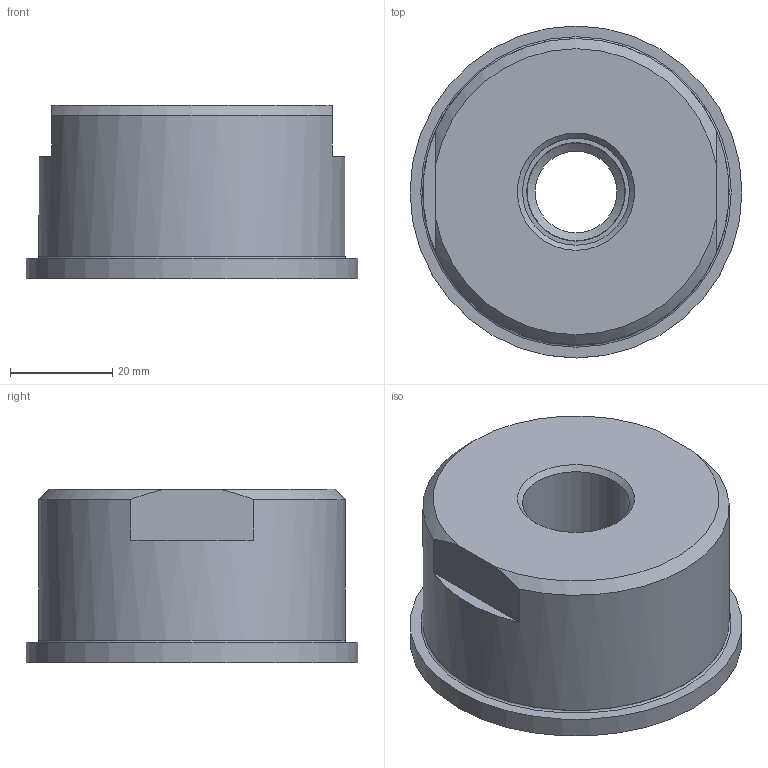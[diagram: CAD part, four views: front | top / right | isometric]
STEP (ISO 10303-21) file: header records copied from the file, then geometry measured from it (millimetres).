
FILE_DESCRIPTION( ( 'Unknown' ), '1' );
FILE_NAME( 'F:/U_Proces/dokumentation new/Mechanical parts/7000 3D Step filer/7000-/7000147/SAM020.051.stp', 'Unknown', ( 'Unknown' ), ( 'Unknown' ), 'PSStep 13.0', 'Unknown', ' ' );
FILE_SCHEMA( ( 'AUTOMOTIVE_DESIGN { 1 0 10303 214 1 1 1 1 }' ) );
Length unit declared in the file: millimetre
Products named in the file (1): 1
Bounding box: 65 x 65 x 34 mm (x, y, z)
Surface area: 14507.8 mm2 (no closed solid volume)
Topology: 0 solids, 21 shells, 21 faces, 78 edges, 69 vertices
Faces by surface type: plane 10, cylinder 5, cone 5, torus 1
Full cylindrical faces by diameter (mm): 19.1 x1, 19.3 x1, 20.96 x1, 60 x1, 65 x1
Entity records: 950 total; most frequent: CARTESIAN_POINT 174, DIRECTION 140, ORIENTED_EDGE 64, EDGE_CURVE 64, VERTEX_POINT 64, AXIS2_PLACEMENT_3D 62, CIRCLE 40, FACE_BOUND 36
